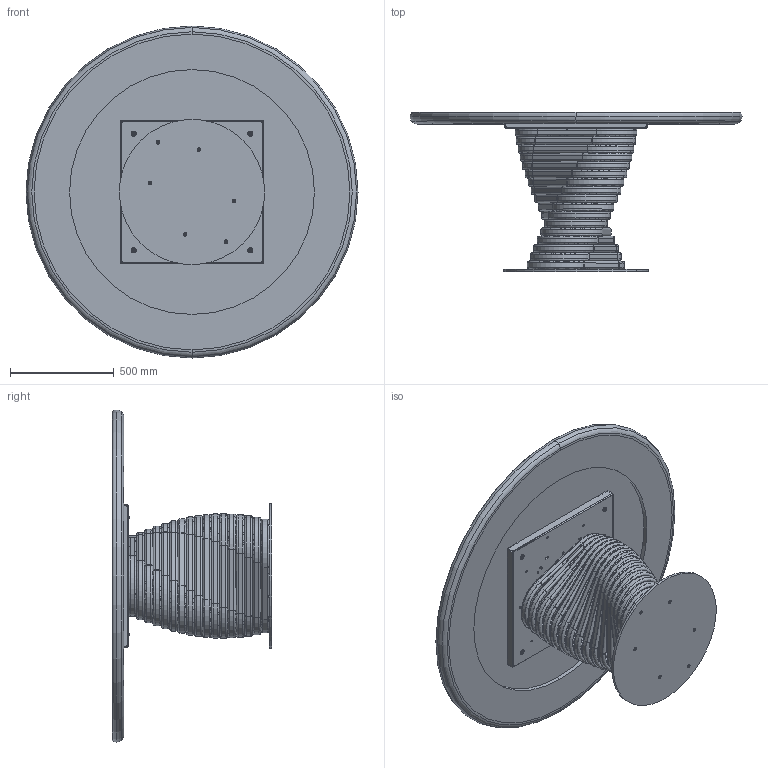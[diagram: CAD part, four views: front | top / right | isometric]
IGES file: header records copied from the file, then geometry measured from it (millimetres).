
Start section: SolidWorks IGES file using analytic representation for surfaces
Global section: file name: Y:\eforma\TECNICO\SOLIDWORKS\E-FORMA\1-TAVOLI\ROTOLO\RO07K_Rotolo_d.160_King.IGS; native system: SolidWorks 2022; preprocessor: SolidWorks 2022; author: eforma.tech; date: 240802.090553; units: millimetre
Bounding box: 1600 x 768 x 1600 mm (x, y, z)
Volume: 100043271.8 mm3; surface area: 15067395.1 mm2
Topology: 84 solids, 84 shells, 1414 faces, 3586 edges, 2324 vertices
Faces by surface type: revolution 852, plane 562
